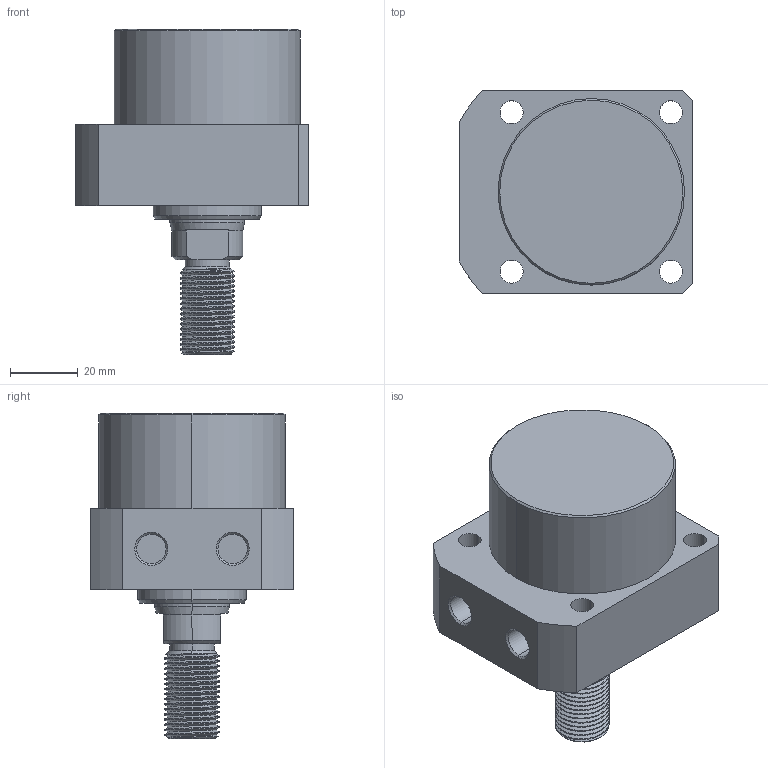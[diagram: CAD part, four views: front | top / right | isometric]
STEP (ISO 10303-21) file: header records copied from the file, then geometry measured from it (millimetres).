
FILE_DESCRIPTION (( 'STEP AP214' ), '1' );
FILE_NAME ('CLLR-055CT-015.STEP', '2020-01-09T00:12:00', ( 'Windows' ), ( 'Microsoft' ), 'SwSTEP 2.0', 'SolidWorks 2015', '' );
FILE_SCHEMA (( 'AUTOMOTIVE_DESIGN' ));
Length unit declared in the file: millimetre
Products named in the file (1): CLLR-055CT-015
Bounding box: 69 x 60 x 96 mm (x, y, z)
Volume: 170842.2 mm3; surface area: 24822.5 mm2
Topology: 1 solids, 1 shells, 103 faces, 264 edges, 171 vertices
Faces by surface type: cylinder 61, cone 20, plane 20, bspline 2
Entity records: 5092 total; most frequent: CARTESIAN_POINT 2708, ORIENTED_EDGE 528, DIRECTION 461, EDGE_CURVE 264, AXIS2_PLACEMENT_3D 180, VERTEX_POINT 171, EDGE_LOOP 119, FACE_OUTER_BOUND 103
